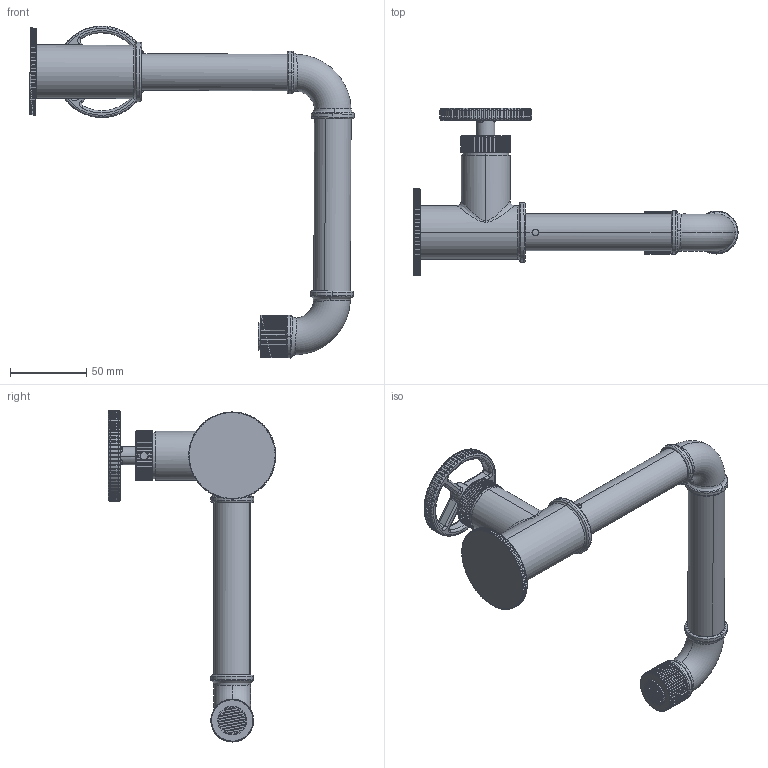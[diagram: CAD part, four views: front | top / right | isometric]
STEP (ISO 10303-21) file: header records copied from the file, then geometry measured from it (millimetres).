
FILE_DESCRIPTION (( 'STEP AP214' ), '1' );
FILE_NAME ('78301110 x architetti.STEP', '2024-11-23T10:15:25', ( '' ), ( '' ), 'SwSTEP 2.0', 'SolidWorks 2020', '' );
FILE_SCHEMA (( 'AUTOMOTIVE_DESIGN' ));
Length unit declared in the file: millimetre
Products named in the file (3): F0007799; 783011 x architetti; 78301110 x architetti
Assembly tree (2 placements, depth 2):
  78301110 x architetti
    783011 x architetti
    F0007799
Bounding box: 212.5 x 109.75 x 217.52 mm (x, y, z)
Volume: 1838.7 mm3; surface area: 57481.2 mm2
Topology: 7 solids, 19 shells, 4158 faces, 10397 edges, 6842 vertices
Faces by surface type: plane 3030, cylinder 779, torus 232, bspline 97, cone 16, sphere 4
Entity records: 151812 total; most frequent: CARTESIAN_POINT 41819, ORIENTED_EDGE 20690, DIRECTION 18759, EDGE_CURVE 10392, VERTEX_POINT 6842, LINE 6283, VECTOR 6283, AXIS2_PLACEMENT_3D 6238
